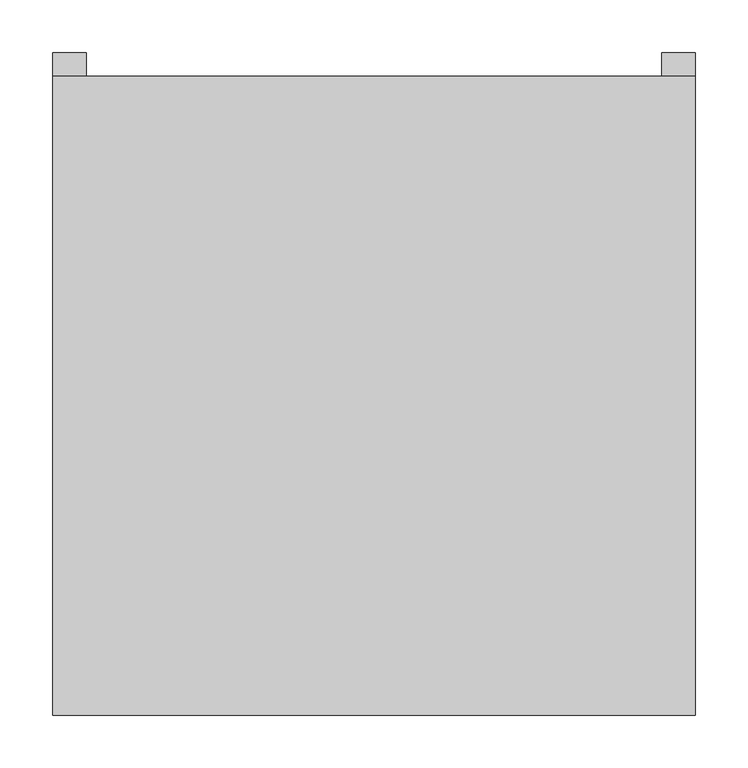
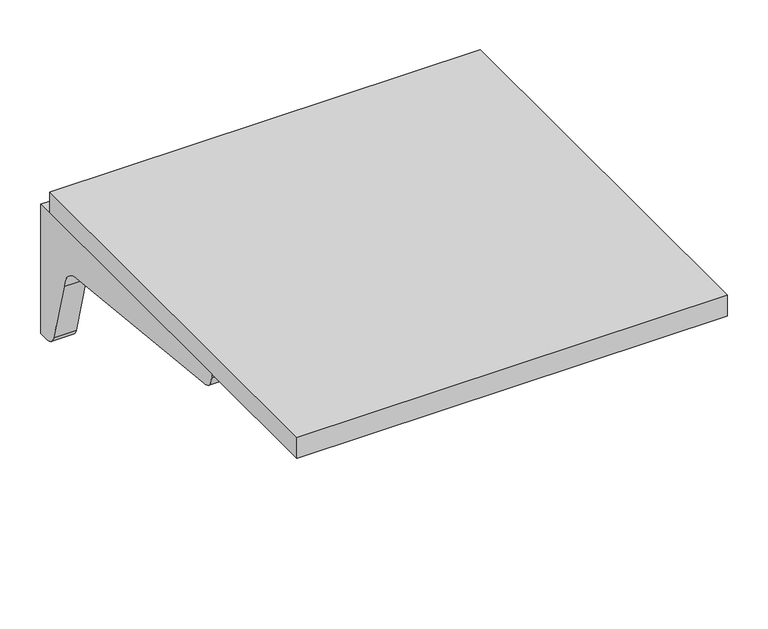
"""IFC4 building model written with IfcOpenShell, lengths in millimetres: furniture geometry."""

from ifc_helpers import new_model, si_unit, point, frame, frame_2d, origin, place, context, project, spatial, polyline, circle_curve, trimmed, segment, composite_curve, outline, extrude, source, transform, mapped, element, save


def furniture_d4c6b201(model_context):
    return source(origin(), model_context, "Body", "SweptSolid", [
        extrude(outline(composite_curve([segment(polyline([(314.325, 704.85), (314.325, 511.175), (301.625, 511.175)]), True, "CONTINUOUS"), segment(trimmed(circle_curve(frame_2d((299.3081081, 528.3371622)), 17.3178462), [point((301.625, 511.175))], [point((282.575, 523.875))], False, "CARTESIAN"), True, "CONTINUOUS"), segment(polyline([(282.575, 523.875), (257.175, 615.95)]), True, "CONTINUOUS"), segment(trimmed(circle_curve(frame_2d((221.8170455, 612.3420455)), 35.5415572), [point((257.175, 615.95))], [point((225.425, 647.7))], True, "CARTESIAN"), True, "CONTINUOUS"), segment(polyline([(225.425, 647.7), (-85.725, 679.45)]), True, "CONTINUOUS"), segment(trimmed(circle_curve(frame_2d((-85.725, 698.5)), 19.05), [point((-85.725, 679.45))], [point((-104.775, 698.5))], False, "CARTESIAN"), True, "CONTINUOUS"), segment(polyline([(-104.775, 698.5), (-104.775, 704.85), (314.325, 704.85)]), True, "CONTINUOUS")], self_intersect=False)), frame((273.05, 0.0, 0.0), z_axis=(1.0, 0.0, 0.0), x_axis=(0.0, 1.0, 0.0)), (0.0, 0.0, 1.0), 31.75),
        extrude(outline(composite_curve([segment(polyline([(314.325, 704.85), (314.325, 511.175), (301.625, 511.175)]), True, "CONTINUOUS"), segment(trimmed(circle_curve(frame_2d((299.3081081, 528.3371622)), 17.3178462), [point((301.625, 511.175))], [point((282.575, 523.875))], False, "CARTESIAN"), True, "CONTINUOUS"), segment(polyline([(282.575, 523.875), (257.175, 615.95)]), True, "CONTINUOUS"), segment(trimmed(circle_curve(frame_2d((221.8170455, 612.3420455)), 35.5415572), [point((257.175, 615.95))], [point((225.425, 647.7))], True, "CARTESIAN"), True, "CONTINUOUS"), segment(polyline([(225.425, 647.7), (-85.725, 679.45)]), True, "CONTINUOUS"), segment(trimmed(circle_curve(frame_2d((-85.725, 698.5)), 19.05), [point((-85.725, 679.45))], [point((-104.775, 698.5))], False, "CARTESIAN"), True, "CONTINUOUS"), segment(polyline([(-104.775, 698.5), (-104.775, 704.85), (314.325, 704.85)]), True, "CONTINUOUS")], self_intersect=False)), frame((-304.8, 0.0, 0.0), z_axis=(1.0, 0.0, 0.0), x_axis=(0.0, 1.0, 0.0)), (0.0, 0.0, 1.0), 31.75),
        extrude(outline(polyline([(-304.8, 292.1), (304.8, 292.1), (304.8, -314.325), (-304.8, -314.325), (-304.8, 292.1)])), frame((0.0, 0.0, 704.85), z_axis=(0.0, 0.0, 1.0), x_axis=(1.0, 0.0, 0.0)), (0.0, 0.0, 1.0), 31.75),
    ])


if __name__ == "__main__":
    model = new_model("IFC4")
    model_context = context("Model", 3, world=origin())
    ifc_project = project(units=[si_unit("LENGTHUNIT", "METRE", prefix="MILLI")], contexts=[model_context])
    site = spatial("IfcSite", under=ifc_project)
    building = spatial("IfcBuilding", under=site)
    placement = place(None, origin())
    furniture_shape = furniture_d4c6b201(model_context)
    element("IfcFurniture", 1, ObjectType="HermanMiller_ActionOffice_A2310_Sq-EdgeRectangularWorkSurface : 24\"D x 24\"W", at=placement, inside=building, context=model_context, shape_type="MappedRepresentation", body=[
        mapped(furniture_shape, transform((0.0, 0.0, 0.0), x_axis=(1.0, 0.0, 0.0), y_axis=(0.0, 1.0, 0.0), z_axis=(0.0, 0.0, 1.0))),
    ])
    save(model, "model.ifc")
